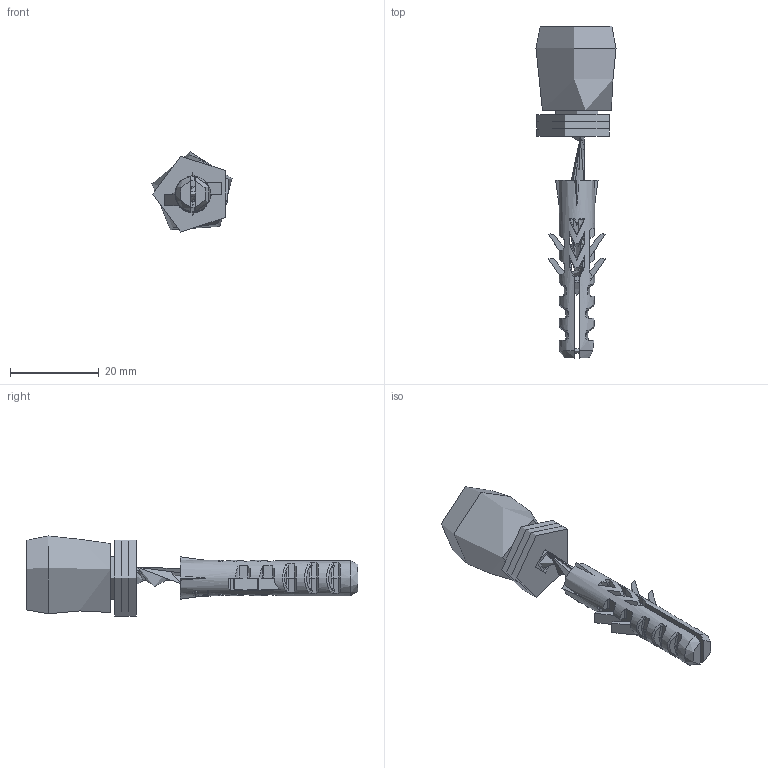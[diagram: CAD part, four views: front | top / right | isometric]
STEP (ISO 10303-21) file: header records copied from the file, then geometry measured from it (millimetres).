
FILE_DESCRIPTION(/* description */ ('Hülse'),/* implementation_level */ '2;1');
FILE_NAME(/* name */ 'Q:\sge-ma\Produktmanagement-STB\STB\Workspace\TraceParts\Bodenführungsrolle Nylon mit Dübel\010337702.stp',/* time_stamp */ '2018-03-05T12:13:39+01:00',/* author */ ('avschreier'),/* organization */ (''),/* preprocessor_version */ 'ST-DEVELOPER v16.1',/* originating_system */ 'Autodesk Inventor 2016',/* authorisation */ '');
FILE_SCHEMA (('CONFIG_CONTROL_DESIGN'));
Length unit declared in the file: millimetre
Products named in the file (7): 337000143; 337000159; DIN 7997 - 5 x 60; DIN_EN_ISO_7090-6,4_en; DIN_EN_ISO_7093-6,4_en; Dubel_F8; 010337702
Assembly tree (8 placements, depth 2):
  010337702
    337000143
    337000159
    DIN 7997 - 5 x 60
    DIN_EN_ISO_7090-6,4_en
    DIN_EN_ISO_7093-6,4_en  x3
    Dubel_F8
Bounding box: 18.03 x 74.8 x 18.04 mm (x, y, z)
Volume: 7073.9 mm3; surface area: 7824.4 mm2
Topology: 8 solids, 8 shells, 423 faces, 1130 edges, 735 vertices
Faces by surface type: plane 209, bspline 114, cylinder 94, cone 6
Full cylindrical faces by diameter (mm): 0.96 x1, 3.5 x14, 5 x1, 5.5 x1, 6.32 x1, 6.4 x4, 8 x1, 9.2 x1, 9.5 x1, 9.7 x1, 12 x2, 18 x3
Entity records: 18919 total; most frequent: CARTESIAN_POINT 9152, ORIENTED_EDGE 2088, DIRECTION 1610, EDGE_CURVE 1044, VERTEX_POINT 689, LINE 562, VECTOR 562, AXIS2_PLACEMENT_3D 524
